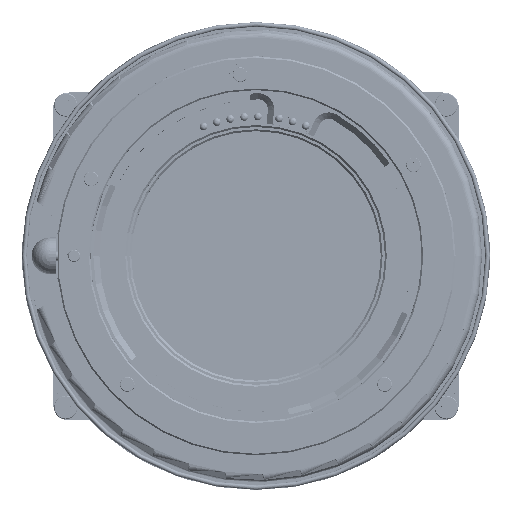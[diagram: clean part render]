
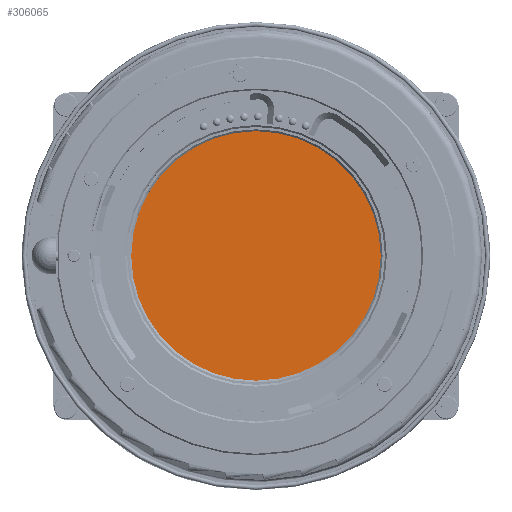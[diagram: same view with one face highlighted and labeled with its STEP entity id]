
A CAD part, top view. The second image highlights one B-rep face of the part: STEP entity #306065.
In plain terms, the highlighted planar face has unit normal (0, 0, 1).
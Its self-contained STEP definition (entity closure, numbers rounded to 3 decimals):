
#46072 = EDGE_LOOP ( 'NONE', ( #662751, #339712 ) ) ;
#51430 = DIRECTION ( 'NONE',  ( 0.014, 1., 0. ) ) ;
#54790 = CIRCLE ( 'NONE', #263727, 23.5 ) ;
#58898 = CARTESIAN_POINT ( 'NONE',  ( 0., 0., 26.026 ) ) ;
#60528 = CIRCLE ( 'NONE', #499341, 23.5 ) ;
#76420 = EDGE_CURVE ( 'NONE', #419911, #289396, #54790, .T. ) ;
#182402 = PLANE ( 'NONE',  #380966 ) ;
#263727 = AXIS2_PLACEMENT_3D ( 'NONE', #58898, #636101, #51430 ) ;
#289396 = VERTEX_POINT ( 'NONE', #414140 ) ;
#306065 = ADVANCED_FACE ( 'NONE', ( #386097 ), #182402, .T. ) ;
#339712 = ORIENTED_EDGE ( 'NONE', *, *, #76420, .T. ) ;
#380966 = AXIS2_PLACEMENT_3D ( 'NONE', #406729, #530170, #583168 ) ;
#385385 = EDGE_CURVE ( 'NONE', #289396, #419911, #60528, .T. ) ;
#386097 = FACE_OUTER_BOUND ( 'NONE', #46072, .T. ) ;
#406729 = CARTESIAN_POINT ( 'NONE',  ( 0., 0., 26.026 ) ) ;
#414140 = CARTESIAN_POINT ( 'NONE',  ( -0.322, -23.498, 26.026 ) ) ;
#419911 = VERTEX_POINT ( 'NONE', #542094 ) ;
#499341 = AXIS2_PLACEMENT_3D ( 'NONE', #678334, #683264, #511931 ) ;
#511931 = DIRECTION ( 'NONE',  ( 0.014, 1., 0. ) ) ;
#530170 = DIRECTION ( 'NONE',  ( 0., 0., 1. ) ) ;
#542094 = CARTESIAN_POINT ( 'NONE',  ( 0.322, 23.498, 26.026 ) ) ;
#583168 = DIRECTION ( 'NONE',  ( 0.014, 1., 0. ) ) ;
#636101 = DIRECTION ( 'NONE',  ( 0., 0., 1. ) ) ;
#662751 = ORIENTED_EDGE ( 'NONE', *, *, #385385, .T. ) ;
#678334 = CARTESIAN_POINT ( 'NONE',  ( 0., 0., 26.026 ) ) ;
#683264 = DIRECTION ( 'NONE',  ( 0., 0., 1. ) ) ;
